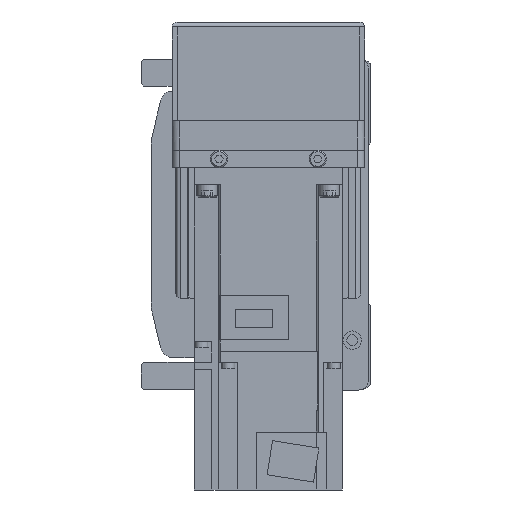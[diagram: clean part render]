
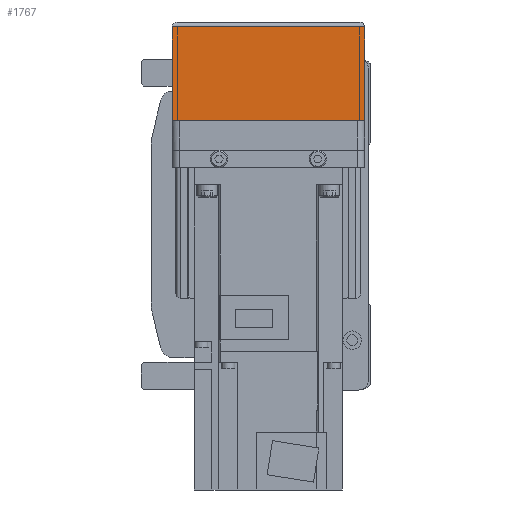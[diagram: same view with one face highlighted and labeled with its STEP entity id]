
A CAD part, left-side view. The second image highlights one B-rep face of the part: STEP entity #1767.
In plain terms, the highlighted planar face has unit normal (-1, 0, 0).
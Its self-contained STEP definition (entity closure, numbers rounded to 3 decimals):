
#1767 = ADVANCED_FACE( '', ( #4250 ), #4251, .F. );
#4250 = FACE_OUTER_BOUND( '', #7630, .T. );
#4251 = PLANE( '', #7631 );
#7630 = EDGE_LOOP( '', ( #12557, #12558, #12559, #12560 ) );
#7631 = AXIS2_PLACEMENT_3D( '', #12561, #12562, #12563 );
#12557 = ORIENTED_EDGE( '', *, *, #20455, .F. );
#12558 = ORIENTED_EDGE( '', *, *, #20592, .F. );
#12559 = ORIENTED_EDGE( '', *, *, #20076, .T. );
#12560 = ORIENTED_EDGE( '', *, *, #20593, .F. );
#12561 = CARTESIAN_POINT( '', ( -158., 36., 7. ) );
#12562 = DIRECTION( '', ( 1., 0., 0. ) );
#12563 = DIRECTION( '', ( 0., 0., -1. ) );
#20076 = EDGE_CURVE( '', #24298, #22969, #24300, .T. );
#20455 = EDGE_CURVE( '', #24917, #24528, #24919, .T. );
#20592 = EDGE_CURVE( '', #24298, #24917, #25135, .T. );
#20593 = EDGE_CURVE( '', #24528, #22969, #25136, .T. );
#22969 = VERTEX_POINT( '', #28406 );
#24298 = VERTEX_POINT( '', #30289 );
#24300 = LINE( '', #30291, #30292 );
#24528 = VERTEX_POINT( '', #30599 );
#24917 = VERTEX_POINT( '', #31155 );
#24919 = LINE( '', #31158, #31159 );
#25135 = LINE( '', #31492, #31493 );
#25136 = LINE( '', #31494, #31495 );
#28406 = CARTESIAN_POINT( '', ( -158., -39., -50. ) );
#30289 = CARTESIAN_POINT( '', ( -158., 39., -50. ) );
#30291 = CARTESIAN_POINT( '', ( -158., 40., -50. ) );
#30292 = VECTOR( '', #37000, 1000. );
#30599 = CARTESIAN_POINT( '', ( -158., -39., -12.1 ) );
#31155 = CARTESIAN_POINT( '', ( -158., 39., -12.1 ) );
#31158 = CARTESIAN_POINT( '', ( -158., 50., -12.1 ) );
#31159 = VECTOR( '', #37471, 1000. );
#31492 = CARTESIAN_POINT( '', ( -158., 39., -50. ) );
#31493 = VECTOR( '', #37642, 1000. );
#31494 = CARTESIAN_POINT( '', ( -158., -39., -12.1 ) );
#31495 = VECTOR( '', #37643, 1000. );
#37000 = DIRECTION( '', ( 0., -1., 0. ) );
#37471 = DIRECTION( '', ( 0., -1., 0. ) );
#37642 = DIRECTION( '', ( 0., 0., 1. ) );
#37643 = DIRECTION( '', ( 0., 0., -1. ) );
